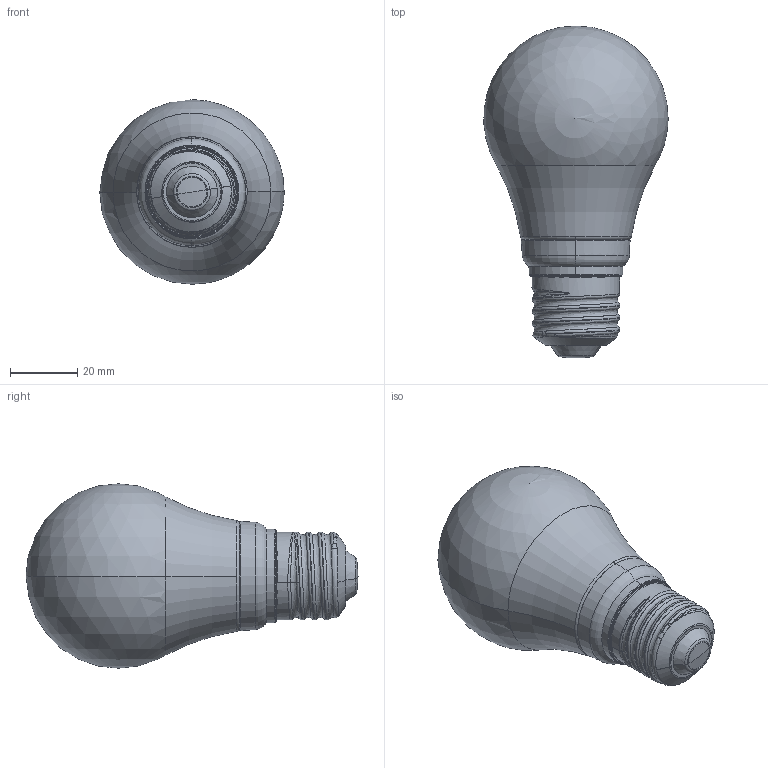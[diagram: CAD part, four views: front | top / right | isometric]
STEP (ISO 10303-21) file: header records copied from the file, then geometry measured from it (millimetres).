
FILE_DESCRIPTION(('FreeCAD Model'),'2;1');
FILE_NAME('Open CASCADE Shape Model','2024-04-30T11:52:04',( 'Lukas Balthasar Pank'),('Astera LED Technology GmbH'), 'Open CASCADE STEP processor 7.6','FreeCAD','Unknown');
FILE_SCHEMA(('AUTOMOTIVE_DESIGN { 1 0 10303 214 1 1 1 1 }'));
Length unit declared in the file: millimetre
Products named in the file (6): FP7-E26-3D; LampCup; MEC29150-Lamp cup-L; Diffuser ForE26; COVER; Socket-E26
Assembly tree (5 placements, depth 3):
  FP7-E26-3D
    LampCup
      MEC29150-Lamp cup-L
    Diffuser ForE26
    COVER
    Socket-E26
Bounding box: 54.96 x 99 x 55 mm (x, y, z)
Volume: 17579.7 mm3; surface area: 36888 mm2
Topology: 4 solids, 4 shells, 4479 faces, 12244 edges, 8137 vertices
Faces by surface type: bspline 2502, plane 1116, cylinder 766, cone 50, torus 35, sphere 10
Entity records: 196554 total; most frequent: CARTESIAN_POINT 104838, ORIENTED_EDGE 24472, EDGE_CURVE 12236, DIRECTION 9528, B_SPLINE_CURVE_WITH_KNOTS 8412, VERTEX_POINT 8137, FACE_BOUND 4853, EDGE_LOOP 4853
